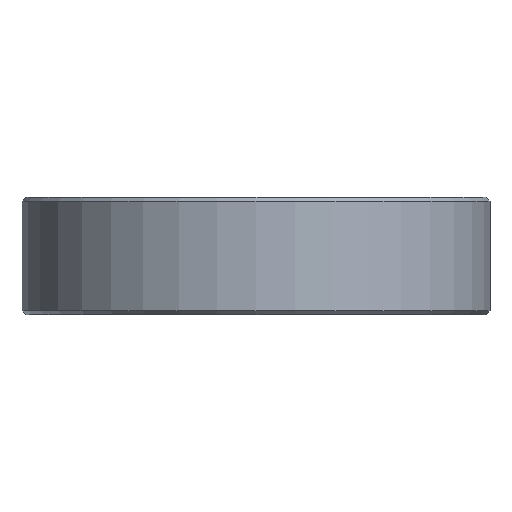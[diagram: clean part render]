
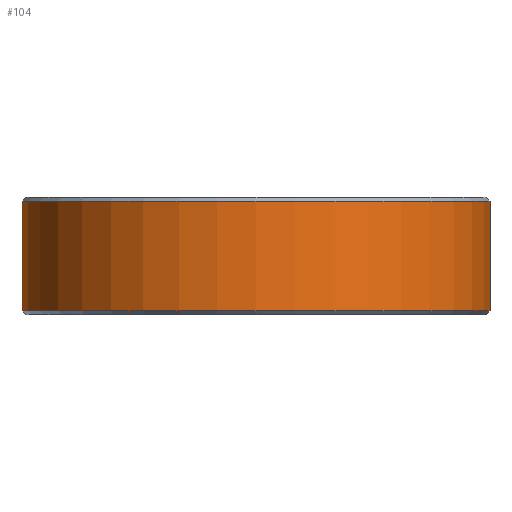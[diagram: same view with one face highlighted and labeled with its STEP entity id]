
A CAD part, front view. The second image highlights one B-rep face of the part: STEP entity #104.
In plain terms, the highlighted cylindrical face has radius 30 mm (diameter 60 mm), a partial arc.
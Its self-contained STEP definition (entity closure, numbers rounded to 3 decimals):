
#104 = ADVANCED_FACE( '', ( #203 ), #204, .T. );
#203 = FACE_OUTER_BOUND( '', #335, .T. );
#204 = CYLINDRICAL_SURFACE( '', #336, 30. );
#335 = EDGE_LOOP( '', ( #601, #602, #603, #604 ) );
#336 = AXIS2_PLACEMENT_3D( '', #605, #606, #607 );
#601 = ORIENTED_EDGE( '', *, *, #834, .T. );
#602 = ORIENTED_EDGE( '', *, *, #765, .T. );
#603 = ORIENTED_EDGE( '', *, *, #835, .F. );
#604 = ORIENTED_EDGE( '', *, *, #826, .T. );
#605 = CARTESIAN_POINT( '', ( 0., 0., 7.5 ) );
#606 = DIRECTION( '', ( 0., 0., -1. ) );
#607 = DIRECTION( '', ( 1., 0., 0. ) );
#765 = EDGE_CURVE( '', #877, #875, #878, .T. );
#826 = EDGE_CURVE( '', #986, #984, #987, .F. );
#834 = EDGE_CURVE( '', #984, #877, #999, .T. );
#835 = EDGE_CURVE( '', #986, #875, #1000, .T. );
#875 = VERTEX_POINT( '', #1064 );
#877 = VERTEX_POINT( '', #1069 );
#878 = LINE( '', #1070, #1071 );
#984 = VERTEX_POINT( '', #1393 );
#986 = VERTEX_POINT( '', #1398 );
#987 = LINE( '', #1399, #1400 );
#999 = CIRCLE( '', #1426, 30. );
#1000 = CIRCLE( '', #1427, 30. );
#1064 = CARTESIAN_POINT( '', ( 29.933, -2., 7. ) );
#1069 = CARTESIAN_POINT( '', ( 29.933, -2., -7. ) );
#1070 = CARTESIAN_POINT( '', ( 29.933, -2., 7.5 ) );
#1071 = VECTOR( '', #1502, 1000. );
#1393 = CARTESIAN_POINT( '', ( -29.933, -2., -7. ) );
#1398 = CARTESIAN_POINT( '', ( -29.933, -2., 7. ) );
#1399 = CARTESIAN_POINT( '', ( -29.933, -2., 7.5 ) );
#1400 = VECTOR( '', #1595, 1000. );
#1426 = AXIS2_PLACEMENT_3D( '', #1601, #1602, #1603 );
#1427 = AXIS2_PLACEMENT_3D( '', #1604, #1605, #1606 );
#1502 = DIRECTION( '', ( 0., 0., 1. ) );
#1595 = DIRECTION( '', ( 0., 0., 1. ) );
#1601 = CARTESIAN_POINT( '', ( 0., 0., -7. ) );
#1602 = DIRECTION( '', ( 0., 0., 1. ) );
#1603 = DIRECTION( '', ( 1., 0., 0. ) );
#1604 = CARTESIAN_POINT( '', ( 0., 0., 7. ) );
#1605 = DIRECTION( '', ( 0., 0., 1. ) );
#1606 = DIRECTION( '', ( 1., 0., 0. ) );
